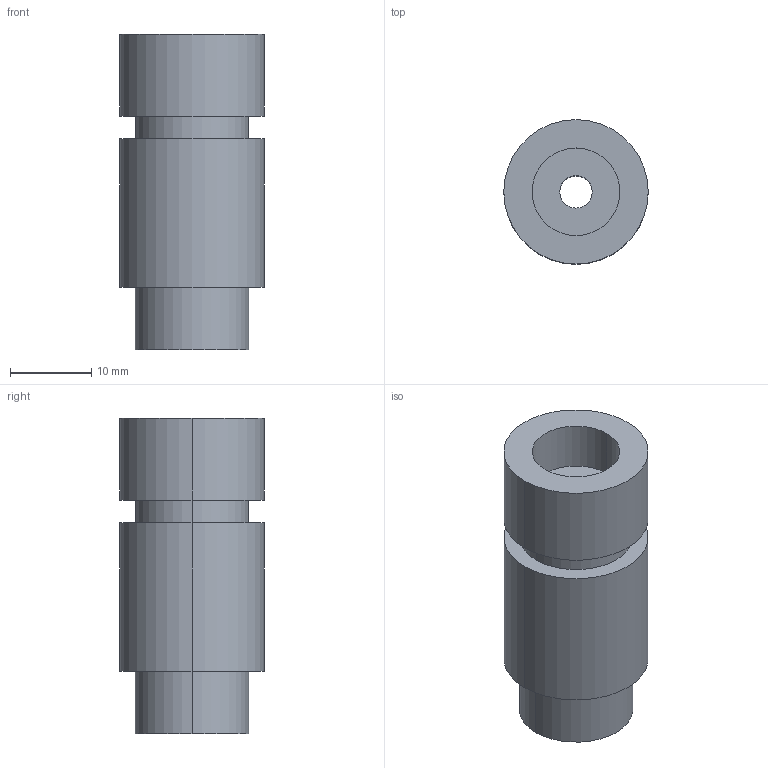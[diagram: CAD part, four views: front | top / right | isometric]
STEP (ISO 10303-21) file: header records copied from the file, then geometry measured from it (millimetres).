
FILE_DESCRIPTION (( 'STEP AP203' ), '1' );
FILE_NAME ('ER-VAJK.STEP', '2006-01-19T00:46:15', ( '川島' ), ( ' ' ), 'SwSTEP 2.0', 'SolidWorks 2005235', '' );
FILE_SCHEMA (( 'CONFIG_CONTROL_DESIGN' ));
Length unit declared in the file: millimetre
Products named in the file (1): ER-VAJK
Bounding box: 17.8 x 17.8 x 38.9 mm (x, y, z)
Volume: 7714.3 mm3; surface area: 3332.8 mm2
Topology: 1 solids, 1 shells, 18 faces, 36 edges, 24 vertices
Faces by surface type: cylinder 12, plane 6
Entity records: 565 total; most frequent: DIRECTION 98, CARTESIAN_POINT 79, ORIENTED_EDGE 72, AXIS2_PLACEMENT_3D 43, EDGE_CURVE 36, CIRCLE 24, VERTEX_POINT 24, EDGE_LOOP 24
